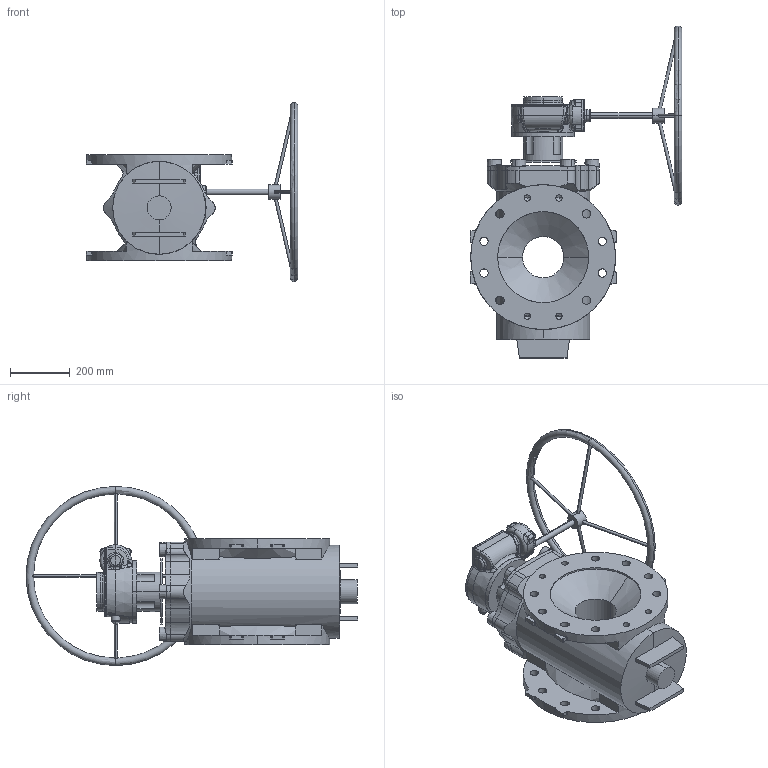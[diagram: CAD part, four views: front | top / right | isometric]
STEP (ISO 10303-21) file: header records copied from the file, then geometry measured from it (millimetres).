
FILE_DESCRIPTION (( 'STEP AP203' ), '1' );
FILE_NAME ('O_764_01_DN300_1XXXXXX020_REV01.step', '2021-02-01T09:32:38', ( '' ), ( '' ), 'SwSTEP 2.0', 'SolidWorks 2019', '' );
FILE_SCHEMA (( 'CONFIG_CONTROL_DESIGN' ));
Length unit declared in the file: millimetre
Products named in the file (1): O_764_01_DN300_1XXXXXX020_REV01
Bounding box: 708.98 x 1111.8 x 600 mm (x, y, z)
Volume: 57815976.9 mm3; surface area: 1871335.3 mm2
Topology: 1 solids, 1 shells, 764 faces, 2000 edges, 1254 vertices
Faces by surface type: cylinder 262, plane 200, bspline 136, cone 92, torus 70, sphere 4
Entity records: 43957 total; most frequent: CARTESIAN_POINT 26195, ORIENTED_EDGE 3928, DIRECTION 3494, EDGE_CURVE 1964, AXIS2_PLACEMENT_3D 1445, VERTEX_POINT 1246, EDGE_LOOP 850, CIRCLE 816
